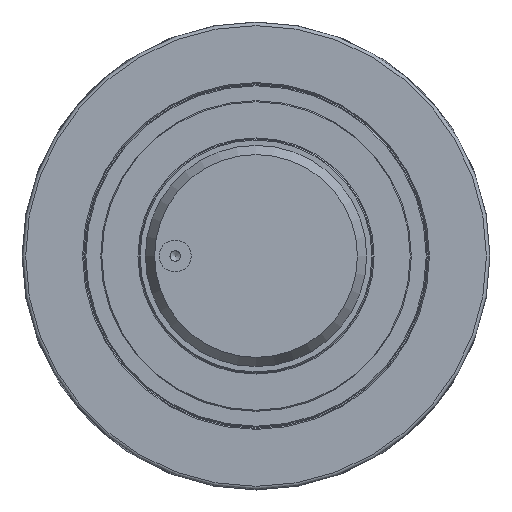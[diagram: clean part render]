
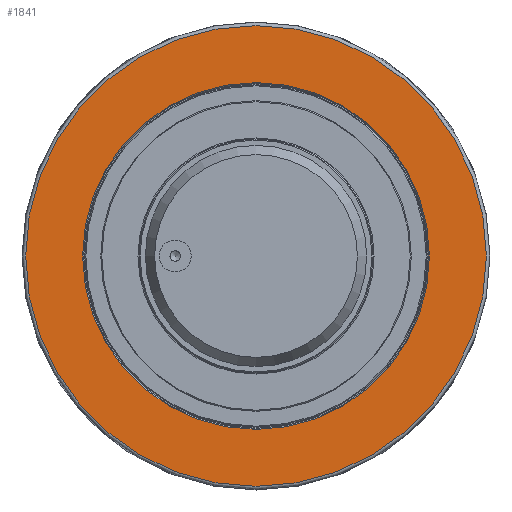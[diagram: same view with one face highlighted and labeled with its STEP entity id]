
A CAD part, left-side view. The second image highlights one B-rep face of the part: STEP entity #1841.
In plain terms, the highlighted planar face has unit normal (-1, 0, 0).
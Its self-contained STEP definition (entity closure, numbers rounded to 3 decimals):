
#83=FACE_BOUND('',#392,.T.);
#179=CIRCLE('',#2053,108.283);
#180=CIRCLE('',#2054,108.283);
#181=CIRCLE('',#2056,81.5);
#270=FACE_OUTER_BOUND('',#391,.T.);
#391=EDGE_LOOP('',(#1523,#1524));
#392=EDGE_LOOP('',(#1525));
#851=VERTEX_POINT('',#3185);
#852=VERTEX_POINT('',#3187);
#853=VERTEX_POINT('',#3191);
#1090=EDGE_CURVE('',#851,#852,#179,.T.);
#1091=EDGE_CURVE('',#852,#851,#180,.T.);
#1092=EDGE_CURVE('',#853,#853,#181,.T.);
#1523=ORIENTED_EDGE('',*,*,#1091,.F.);
#1524=ORIENTED_EDGE('',*,*,#1090,.F.);
#1525=ORIENTED_EDGE('',*,*,#1092,.F.);
#1747=PLANE('',#2055);
#1841=ADVANCED_FACE('',(#270,#83),#1747,.T.);
#2053=AXIS2_PLACEMENT_3D('',#3188,#2506,#2507);
#2054=AXIS2_PLACEMENT_3D('',#3189,#2508,#2509);
#2055=AXIS2_PLACEMENT_3D('',#3190,#2510,#2511);
#2056=AXIS2_PLACEMENT_3D('',#3192,#2512,#2513);
#2506=DIRECTION('center_axis',(1.,0.,0.));
#2507=DIRECTION('ref_axis',(0.,0.,-1.));
#2508=DIRECTION('center_axis',(1.,0.,0.));
#2509=DIRECTION('ref_axis',(0.,0.,-1.));
#2510=DIRECTION('center_axis',(-1.,0.,0.));
#2511=DIRECTION('ref_axis',(0.,-1.,0.));
#2512=DIRECTION('center_axis',(-1.,0.,0.));
#2513=DIRECTION('ref_axis',(0.,0.,-1.));
#3185=CARTESIAN_POINT('',(-48.382,-122.653,10.106));
#3187=CARTESIAN_POINT('',(-48.382,-14.37,118.389));
#3188=CARTESIAN_POINT('Origin',(-48.382,-14.37,10.106));
#3189=CARTESIAN_POINT('Origin',(-48.382,-14.37,10.106));
#3190=CARTESIAN_POINT('Origin',(-48.382,-14.37,105.485));
#3191=CARTESIAN_POINT('',(-48.382,-14.37,91.606));
#3192=CARTESIAN_POINT('Origin',(-48.382,-14.37,10.106));
